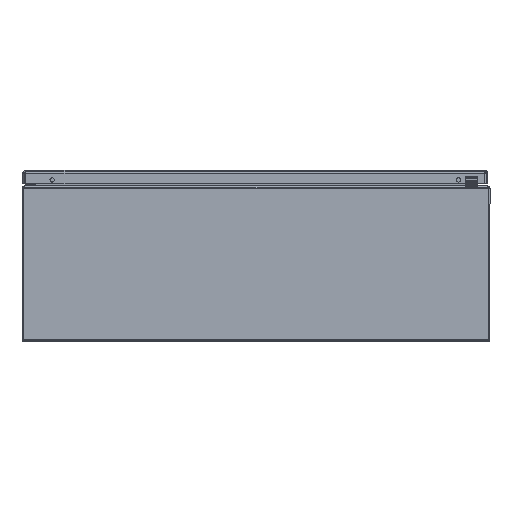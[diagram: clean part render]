
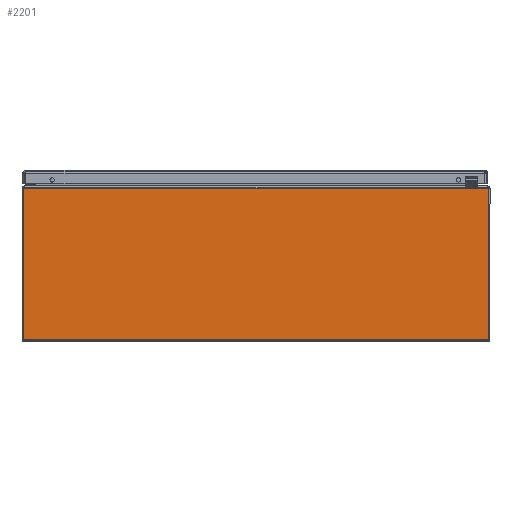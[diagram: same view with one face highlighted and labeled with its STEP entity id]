
A CAD part, front view. The second image highlights one B-rep face of the part: STEP entity #2201.
In plain terms, the highlighted planar face has unit normal (0, -1, 0).
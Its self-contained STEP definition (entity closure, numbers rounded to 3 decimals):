
#2201 = ADVANCED_FACE ( 'NONE', ( #19296 ), #39458, .T. ) ;
#4727 = EDGE_CURVE ( 'NONE', #8968, #8966, #46266, .T. ) ;
#4770 = EDGE_CURVE ( 'NONE', #9000, #8998, #46321, .T. ) ;
#4780 = EDGE_CURVE ( 'NONE', #8968, #8998, #46349, .T. ) ;
#4784 = EDGE_CURVE ( 'NONE', #8966, #9000, #46357, .T. ) ;
#5212 = ORIENTED_EDGE ( 'NONE', *, *, #4770, .T. ) ;
#5213 = ORIENTED_EDGE ( 'NONE', *, *, #4780, .F. ) ;
#5214 = ORIENTED_EDGE ( 'NONE', *, *, #4727, .T. ) ;
#5215 = ORIENTED_EDGE ( 'NONE', *, *, #4784, .T. ) ;
#8452 = CARTESIAN_POINT ( 'NONE',  ( -11.938, -18., 7.855 ) ) ;
#8456 = DIRECTION ( 'NONE',  ( 0., 0., -1. ) ) ;
#8966 = VERTEX_POINT ( 'NONE', #16737 ) ;
#8968 = VERTEX_POINT ( 'NONE', #16739 ) ;
#8998 = VERTEX_POINT ( 'NONE', #16770 ) ;
#9000 = VERTEX_POINT ( 'NONE', #16772 ) ;
#9968 = EDGE_LOOP ( 'NONE', ( #5212, #5213, #5214, #5215 ) ) ;
#11943 = CARTESIAN_POINT ( 'NONE',  ( 11.938, -18., 7.855 ) ) ;
#11945 = DIRECTION ( 'NONE',  ( 0., 0., 1. ) ) ;
#11966 = CARTESIAN_POINT ( 'NONE',  ( -192., -18., 7.855 ) ) ;
#11968 = DIRECTION ( 'NONE',  ( 1., 0., 0. ) ) ;
#11979 = CARTESIAN_POINT ( 'NONE',  ( -192., -18., 0.106 ) ) ;
#11980 = DIRECTION ( 'NONE',  ( 1., 0., 0. ) ) ;
#16737 = CARTESIAN_POINT ( 'NONE',  ( -11.938, -18., 0.106 ) ) ;
#16739 = CARTESIAN_POINT ( 'NONE',  ( -11.938, -18., 7.855 ) ) ;
#16770 = CARTESIAN_POINT ( 'NONE',  ( 11.938, -18., 7.855 ) ) ;
#16772 = CARTESIAN_POINT ( 'NONE',  ( 11.938, -18., 0.106 ) ) ;
#19296 = FACE_OUTER_BOUND ( 'NONE', #9968, .T. ) ;
#37342 = AXIS2_PLACEMENT_3D ( 'NONE', #39451, #39463, #39464 ) ;
#39451 = CARTESIAN_POINT ( 'NONE',  ( -192., -18., 7.855 ) ) ;
#39458 = PLANE ( 'NONE',  #37342 ) ;
#39463 = DIRECTION ( 'NONE',  ( 0., -1., 0. ) ) ;
#39464 = DIRECTION ( 'NONE',  ( 0., 0., -1. ) ) ;
#46260 = VECTOR ( 'NONE', #8456, 39.37 ) ;
#46266 = LINE ( 'NONE', #8452, #46260 ) ;
#46321 = LINE ( 'NONE', #11943, #46331 ) ;
#46331 = VECTOR ( 'NONE', #11945, 39.37 ) ;
#46349 = LINE ( 'NONE', #11966, #46350 ) ;
#46350 = VECTOR ( 'NONE', #11968, 39.37 ) ;
#46357 = LINE ( 'NONE', #11979, #46358 ) ;
#46358 = VECTOR ( 'NONE', #11980, 39.37 ) ;
